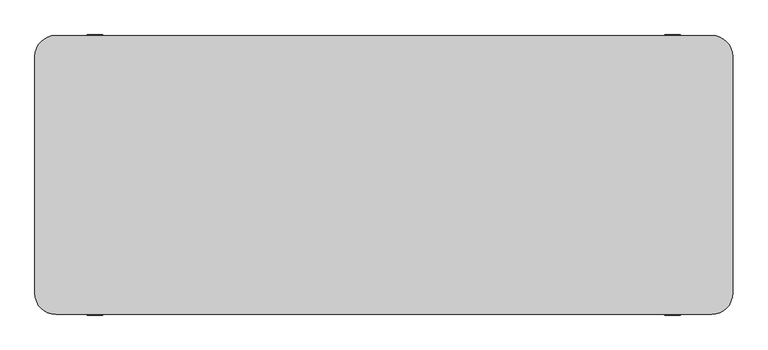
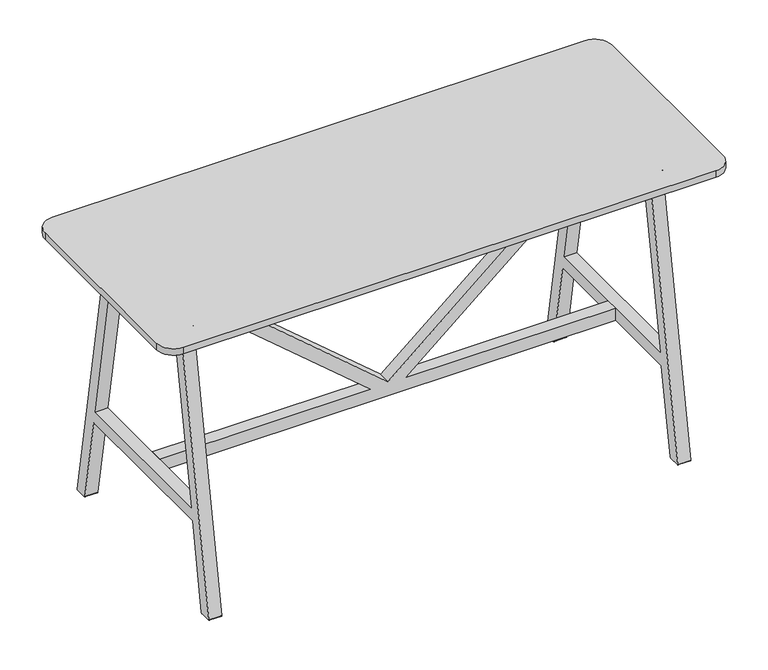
"""IFC4 building model written with IfcOpenShell, lengths in millimetres: furniture geometry, Furniture-Chair-LyndonDesign-Agent_AGE_11 : Furniture-Chair-LyndonDesign-Agent_AGE_11."""

from ifc_helpers import new_model, si_unit, point, frame, frame_2d, origin, place, context, project, spatial, polyline, circle_curve, trimmed, segment, composite_curve, outline, extrude, source, transform, mapped, element, save


def furniture_edffb28d(model_context):
    return source(origin(), model_context, "Body", "SweptSolid", [
        extrude(outline(composite_curve([segment(trimmed(circle_curve(frame_2d((278.4999934, 1029.9999908)), 44.0000027), [point((322.3178016, 1026.0))], [point((278.4999934, 985.9999881))], False, "CARTESIAN"), True, "CONTINUOUS"), segment(polyline([(278.4999934, 985.9999881), (242.6314977, 985.9999881)]), True, "CONTINUOUS"), segment(trimmed(circle_curve(frame_2d((242.6314977, 973.9754464)), 12.0245417), [point((242.6314977, 985.9999881))], [point((230.6287062, 973.2525357))], True, "CARTESIAN"), True, "CONTINUOUS"), segment(polyline([(230.6287062, 973.2525357), (401.8254966, 2.3472964)]), True, "CONTINUOUS"), segment(trimmed(circle_curve(frame_2d((399.8558811, 2.0)), 2.0), [point((401.8254966, 2.3472964))], [point((399.8558811, 0.0))], False, "CARTESIAN"), True, "CONTINUOUS"), segment(polyline([(399.8558811, 0.0), (359.8825382, 0.0)]), True, "CONTINUOUS"), segment(trimmed(circle_curve(frame_2d((359.8825382, 3.9773014)), 3.9773014), [point((359.8825382, 0.0))], [point((355.965661, 3.2866503))], False, "CARTESIAN"), True, "CONTINUOUS"), segment(polyline([(355.965661, 3.2866503), (301.7074937, 311.000006), (-301.674698, 311.000006), (-355.96352, 3.3049865)]), True, "CONTINUOUS"), segment(trimmed(circle_curve(frame_2d((-359.9026768, 4.0)), 4.0), [point((-355.96352, 3.3049865))], [point((-359.9026768, 0.0))], False, "CARTESIAN"), True, "CONTINUOUS"), segment(polyline([(-359.9026768, 0.0), (-399.8558907, 0.0)]), True, "CONTINUOUS"), segment(trimmed(circle_curve(frame_2d((-399.8558907, 2.0)), 2.0), [point((-399.8558907, 0.0))], [point((-401.8255062, 2.3472964))], False, "CARTESIAN"), True, "CONTINUOUS"), segment(polyline([(-401.8255062, 2.3472964), (-230.5012471, 973.9754464)]), True, "CONTINUOUS"), segment(trimmed(circle_curve(frame_2d((-242.5257888, 973.9754464)), 12.0245417), [point((-230.5012471, 973.9754464))], [point((-242.5257888, 985.9999881))], True, "CARTESIAN"), True, "CONTINUOUS"), segment(polyline([(-242.5257888, 985.9999881), (-278.3942846, 985.9999881)]), True, "CONTINUOUS"), segment(trimmed(circle_curve(frame_2d((-278.3942846, 1029.9999908)), 44.0000027), [point((-278.3942846, 985.9999881))], [point((-322.2120927, 1026.0))], False, "CARTESIAN"), True, "CONTINUOUS"), segment(polyline([(-322.2120927, 1026.0), (322.3178016, 1026.0)]), True, "CONTINUOUS")], self_intersect=False), holes=[composite_curve([segment(trimmed(circle_curve(frame_2d((-167.8942879, 968.4119913)), 17.5879967), [point((-167.8942879, 985.9999881))], [point((-184.8733277, 973.0000012))], True, "CARTESIAN"), True, "CONTINUOUS"), segment(polyline([(-184.8733277, 973.0000012), (-293.7350301, 355.9999928), (293.7727818, 355.9999928), (184.9790253, 973.0000428)]), True, "CONTINUOUS"), segment(trimmed(circle_curve(frame_2d((167.9999967, 968.4119913)), 17.5879967), [point((184.9790253, 973.0000428))], [point((167.9999967, 985.9999881))], True, "CARTESIAN"), True, "CONTINUOUS"), segment(polyline([(167.9999967, 985.9999881), (-167.8942879, 985.9999881)]), True, "CONTINUOUS")], self_intersect=False)]), frame((-849.9999937, 0.0, 0.0), z_axis=(1.0, 0.0, 0.0), x_axis=(0.0, 1.0, 0.0)), (0.0, 0.0, 1.0), 45.0),
        extrude(outline(composite_curve([segment(trimmed(circle_curve(frame_2d((278.4999934, 1029.9999908)), 44.0000027), [point((322.3178016, 1026.0))], [point((278.4999934, 985.9999881))], False, "CARTESIAN"), True, "CONTINUOUS"), segment(polyline([(278.4999934, 985.9999881), (242.6314977, 985.9999881)]), True, "CONTINUOUS"), segment(trimmed(circle_curve(frame_2d((242.6314977, 973.9754464)), 12.0245417), [point((242.6314977, 985.9999881))], [point((230.6287062, 973.2525357))], True, "CARTESIAN"), True, "CONTINUOUS"), segment(polyline([(230.6287062, 973.2525357), (401.8254966, 2.3472964)]), True, "CONTINUOUS"), segment(trimmed(circle_curve(frame_2d((399.8558811, 2.0)), 2.0), [point((401.8254966, 2.3472964))], [point((399.8558811, 0.0))], False, "CARTESIAN"), True, "CONTINUOUS"), segment(polyline([(399.8558811, 0.0), (359.8825382, 0.0)]), True, "CONTINUOUS"), segment(trimmed(circle_curve(frame_2d((359.8825382, 3.9773014)), 3.9773014), [point((359.8825382, 0.0))], [point((355.965661, 3.2866503))], False, "CARTESIAN"), True, "CONTINUOUS"), segment(polyline([(355.965661, 3.2866503), (301.7074937, 311.000006), (-301.674698, 311.000006), (-355.96352, 3.3049865)]), True, "CONTINUOUS"), segment(trimmed(circle_curve(frame_2d((-359.9026768, 4.0)), 4.0), [point((-355.96352, 3.3049865))], [point((-359.9026768, 0.0))], False, "CARTESIAN"), True, "CONTINUOUS"), segment(polyline([(-359.9026768, 0.0), (-399.8558907, 0.0)]), True, "CONTINUOUS"), segment(trimmed(circle_curve(frame_2d((-399.8558907, 2.0)), 2.0), [point((-399.8558907, 0.0))], [point((-401.8255062, 2.3472964))], False, "CARTESIAN"), True, "CONTINUOUS"), segment(polyline([(-401.8255062, 2.3472964), (-230.5012471, 973.9754464)]), True, "CONTINUOUS"), segment(trimmed(circle_curve(frame_2d((-242.5257888, 973.9754464)), 12.0245417), [point((-230.5012471, 973.9754464))], [point((-242.5257888, 985.9999881))], True, "CARTESIAN"), True, "CONTINUOUS"), segment(polyline([(-242.5257888, 985.9999881), (-278.3942846, 985.9999881)]), True, "CONTINUOUS"), segment(trimmed(circle_curve(frame_2d((-278.3942846, 1029.9999908)), 44.0000027), [point((-278.3942846, 985.9999881))], [point((-322.2120927, 1026.0))], False, "CARTESIAN"), True, "CONTINUOUS"), segment(polyline([(-322.2120927, 1026.0), (322.3178016, 1026.0)]), True, "CONTINUOUS")], self_intersect=False), holes=[composite_curve([segment(trimmed(circle_curve(frame_2d((-167.8942879, 968.4119913)), 17.5879967), [point((-167.8942879, 985.9999881))], [point((-184.8733277, 973.0000012))], True, "CARTESIAN"), True, "CONTINUOUS"), segment(polyline([(-184.8733277, 973.0000012), (-293.7350301, 355.9999928), (293.7727818, 355.9999928), (184.9790253, 973.0000428)]), True, "CONTINUOUS"), segment(trimmed(circle_curve(frame_2d((167.9999967, 968.4119913)), 17.5879967), [point((184.9790253, 973.0000428))], [point((167.9999967, 985.9999881))], True, "CARTESIAN"), True, "CONTINUOUS"), segment(polyline([(167.9999967, 985.9999881), (-167.8942879, 985.9999881)]), True, "CONTINUOUS")], self_intersect=False)]), frame((804.9999937, 0.0, 0.0), z_axis=(1.0, 0.0, 0.0), x_axis=(0.0, 1.0, 0.0)), (0.0, 0.0, 1.0), 45.0),
        extrude(outline(polyline([(-225.5425259, 946.4629989), (-211.5180065, 1026.0), (-187.1477679, 1026.0), (-201.907585, 942.292918), (-225.5425259, 946.4629989)])), frame((-805.0000834, 0.0, 0.0), z_axis=(1.0, 0.0, 0.0), x_axis=(0.0, 1.0, 0.0)), (0.0, 0.0, 1.0), 1610.0000771),
        extrude(outline(polyline([(225.5425259, 946.4629989), (201.907585, 942.292918), (187.1477679, 1026.0), (211.5180065, 1026.0), (225.5425259, 946.4629989)])), frame((-805.0000834, 0.0, 0.0), z_axis=(1.0, 0.0, 0.0), x_axis=(0.0, 1.0, 0.0)), (0.0, 0.0, 1.0), 1610.0000771),
        extrude(outline(polyline([(355.9999928, -59.9118823), (355.9999928, -805.0000834), (311.000006, -805.0000834), (311.000006, 804.9999937), (355.9999928, 804.9999937), (355.9999928, 61.2429203), (988.7425857, 806.3310318), (1026.0, 806.3310318), (1026.0, 780.9373388), (363.378752, 0.665519), (1026.0, -779.6063007), (1026.0, -804.9999937), (988.7425857, -804.9999937), (355.9999928, -59.9118823)])), frame((0.0, -22.5, 0.0), z_axis=(0.0, 1.0, 0.0), x_axis=(0.0, 0.0, 1.0)), (0.0, 0.0, 1.0), 45.0),
        extrude(outline(composite_curve([segment(polyline([(-940.0, 400.0), (940.0, 400.0)]), True, "CONTINUOUS"), segment(trimmed(circle_curve(frame_2d((940.0, 340.0)), 60.0), [point((940.0, 400.0))], [point((1000.0, 340.0))], False, "CARTESIAN"), True, "CONTINUOUS"), segment(polyline([(1000.0, 340.0), (1000.0, -340.0)]), True, "CONTINUOUS"), segment(trimmed(circle_curve(frame_2d((940.0, -340.0)), 60.0), [point((1000.0, -340.0))], [point((940.0, -400.0))], False, "CARTESIAN"), True, "CONTINUOUS"), segment(polyline([(940.0, -400.0), (-940.0, -400.0)]), True, "CONTINUOUS"), segment(trimmed(circle_curve(frame_2d((-940.0, -340.0)), 60.0), [point((-940.0, -400.0))], [point((-1000.0, -340.0))], False, "CARTESIAN"), True, "CONTINUOUS"), segment(polyline([(-1000.0, -340.0), (-1000.0, 340.0)]), True, "CONTINUOUS"), segment(trimmed(circle_curve(frame_2d((-940.0, 340.0)), 60.0), [point((-1000.0, 340.0))], [point((-940.0, 400.0))], False, "CARTESIAN"), True, "CONTINUOUS")], self_intersect=False)), frame((0.0, 0.0, 1026.0), z_axis=(0.0, 0.0, 1.0), x_axis=(1.0, 0.0, 0.0)), (0.0, 0.0, 1.0), 24.0),
    ])


if __name__ == "__main__":
    model = new_model("IFC4")
    model_context = context("Model", 3, world=origin())
    ifc_project = project(units=[si_unit("LENGTHUNIT", "METRE", prefix="MILLI")], contexts=[model_context])
    site = spatial("IfcSite", under=ifc_project)
    building = spatial("IfcBuilding", under=site)
    placement = place(None, origin())
    furniture_shape = furniture_edffb28d(model_context)
    element("IfcFurniture", 1, ObjectType="Furniture-Chair-LyndonDesign-Agent_AGE_11 : Furniture-Chair-LyndonDesign-Agent_AGE_11", at=placement, inside=building, context=model_context, shape_type="MappedRepresentation", body=[
        mapped(furniture_shape, transform((0.0, 0.0, 0.0), x_axis=(1.0, 0.0, 0.0), y_axis=(0.0, 1.0, 0.0), z_axis=(0.0, 0.0, 1.0))),
    ])
    save(model, "model.ifc")
